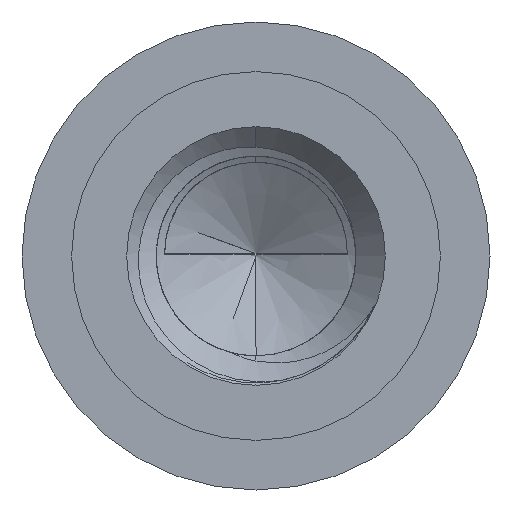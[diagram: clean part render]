
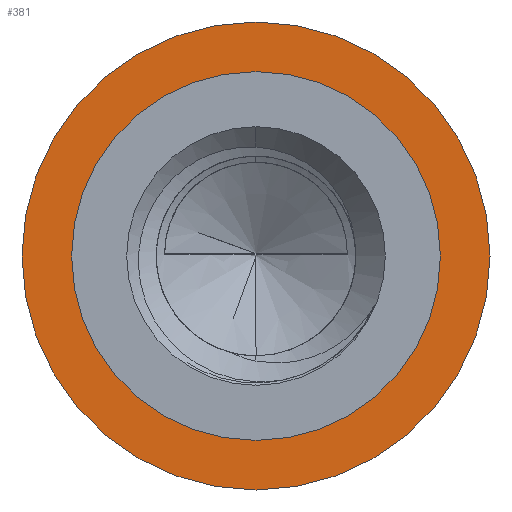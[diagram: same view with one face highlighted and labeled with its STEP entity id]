
A CAD part, front view. The second image highlights one B-rep face of the part: STEP entity #381.
In plain terms, the highlighted planar face has unit normal (0, -1, 0).
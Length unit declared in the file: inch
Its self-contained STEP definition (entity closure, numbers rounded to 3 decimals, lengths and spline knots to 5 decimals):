
#29 = DIRECTION ( 'NONE',  ( 0., 0., -1. ) ) ;
#73 = CARTESIAN_POINT ( 'NONE',  ( 0., 0.35433, 0.09837 ) ) ;
#381 = ADVANCED_FACE ( 'NONE', ( #5524, #525 ), #6723, .T. ) ;
#393 = DIRECTION ( 'NONE',  ( 0., -1., 0. ) ) ;
#525 = FACE_OUTER_BOUND ( 'NONE', #1891, .T. ) ;
#552 = AXIS2_PLACEMENT_3D ( 'NONE', #5836, #3620, #2005 ) ;
#961 = DIRECTION ( 'NONE',  ( 0., 0., -1. ) ) ;
#1141 = CIRCLE ( 'NONE', #552, 0.12485 ) ;
#1236 = CIRCLE ( 'NONE', #3963, 0.12485 ) ;
#1262 = VERTEX_POINT ( 'NONE', #5155 ) ;
#1654 = DIRECTION ( 'NONE',  ( 0., -1., 0. ) ) ;
#1790 = ORIENTED_EDGE ( 'NONE', *, *, #6960, .F. ) ;
#1858 = DIRECTION ( 'NONE',  ( 0., -1., 0. ) ) ;
#1891 = EDGE_LOOP ( 'NONE', ( #2656, #3438 ) ) ;
#1967 = CIRCLE ( 'NONE', #4431, 0.09837 ) ;
#2005 = DIRECTION ( 'NONE',  ( 0., 0., -1. ) ) ;
#2214 = ORIENTED_EDGE ( 'NONE', *, *, #6816, .F. ) ;
#2419 = EDGE_CURVE ( 'NONE', #5229, #5256, #1141, .T. ) ;
#2656 = ORIENTED_EDGE ( 'NONE', *, *, #2419, .T. ) ;
#2883 = CARTESIAN_POINT ( 'NONE',  ( 0., 0.35433, 0. ) ) ;
#2902 = DIRECTION ( 'NONE',  ( 0., 0., -1. ) ) ;
#2982 = EDGE_CURVE ( 'NONE', #5256, #5229, #1236, .T. ) ;
#3213 = EDGE_LOOP ( 'NONE', ( #1790, #2214 ) ) ;
#3438 = ORIENTED_EDGE ( 'NONE', *, *, #2982, .T. ) ;
#3545 = CARTESIAN_POINT ( 'NONE',  ( 0., 0.35433, 0. ) ) ;
#3620 = DIRECTION ( 'NONE',  ( 0., -1., 0. ) ) ;
#3690 = CARTESIAN_POINT ( 'NONE',  ( 0., 0.35433, 0. ) ) ;
#3903 = CARTESIAN_POINT ( 'NONE',  ( 0., 0.35433, 0. ) ) ;
#3963 = AXIS2_PLACEMENT_3D ( 'NONE', #3690, #393, #961 ) ;
#4168 = DIRECTION ( 'NONE',  ( 0., 0., -1. ) ) ;
#4431 = AXIS2_PLACEMENT_3D ( 'NONE', #3545, #5293, #4168 ) ;
#4848 = AXIS2_PLACEMENT_3D ( 'NONE', #3903, #1654, #29 ) ;
#5155 = CARTESIAN_POINT ( 'NONE',  ( 0., 0.35433, -0.09837 ) ) ;
#5229 = VERTEX_POINT ( 'NONE', #5834 ) ;
#5256 = VERTEX_POINT ( 'NONE', #6019 ) ;
#5293 = DIRECTION ( 'NONE',  ( 0., -1., 0. ) ) ;
#5524 = FACE_BOUND ( 'NONE', #3213, .T. ) ;
#5834 = CARTESIAN_POINT ( 'NONE',  ( 0., 0.35433, -0.12485 ) ) ;
#5836 = CARTESIAN_POINT ( 'NONE',  ( 0., 0.35433, 0. ) ) ;
#6019 = CARTESIAN_POINT ( 'NONE',  ( 0., 0.35433, 0.12485 ) ) ;
#6053 = CIRCLE ( 'NONE', #4848, 0.09837 ) ;
#6626 = VERTEX_POINT ( 'NONE', #73 ) ;
#6723 = PLANE ( 'NONE',  #6970 ) ;
#6816 = EDGE_CURVE ( 'NONE', #6626, #1262, #1967, .T. ) ;
#6960 = EDGE_CURVE ( 'NONE', #1262, #6626, #6053, .T. ) ;
#6970 = AXIS2_PLACEMENT_3D ( 'NONE', #2883, #1858, #2902 ) ;
